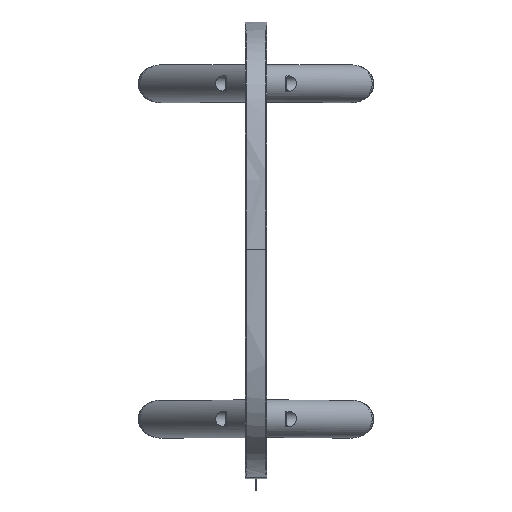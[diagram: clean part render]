
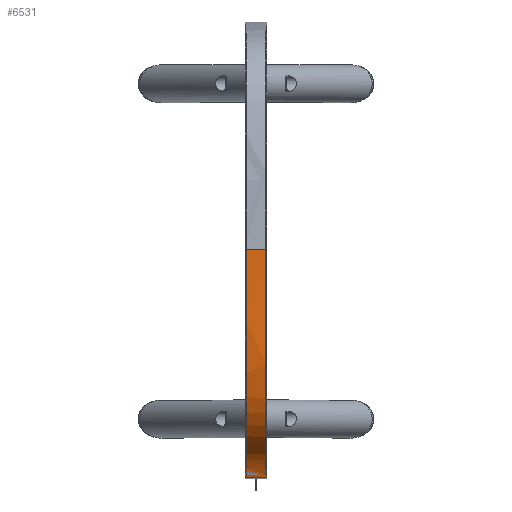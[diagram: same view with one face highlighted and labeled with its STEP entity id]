
A CAD part, top view. The second image highlights one B-rep face of the part: STEP entity #6531.
In plain terms, the highlighted free-form (B-spline) face has degree [3, 1] with [28, 2] control points.
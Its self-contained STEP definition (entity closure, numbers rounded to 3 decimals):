
#372=B_SPLINE_SURFACE_WITH_KNOTS('',3,1,((#9185,#9186),(#9187,#9188),(#9189,
#9190),(#9191,#9192),(#9193,#9194),(#9195,#9196),(#9197,#9198),(#9199,#9200),
(#9201,#9202),(#9203,#9204),(#9205,#9206),(#9207,#9208),(#9209,#9210),(#9211,
#9212),(#9213,#9214),(#9215,#9216),(#9217,#9218),(#9219,#9220),(#9221,#9222),
(#9223,#9224),(#9225,#9226),(#9227,#9228),(#9229,#9230),(#9231,#9232),(#9233,
#9234),(#9235,#9236),(#9237,#9238),(#9239,#9240)),.UNSPECIFIED.,.F.,.F.,
 .F.,(4,3,3,3,3,3,3,3,3,4),(2,2),(-0.009,0.,0.001,
0.13,0.294,0.457,0.624,
0.791,0.926,1.),(0.,3.72),
 .UNSPECIFIED.);
#574=FACE_OUTER_BOUND('',#971,.T.);
#971=EDGE_LOOP('',(#4419,#4420,#4421,#4422));
#1387=LINE('',#9068,#1959);
#1391=LINE('',#9241,#1963);
#1959=VECTOR('',#7445,10.);
#1963=VECTOR('',#7451,10.);
#2526=B_SPLINE_CURVE_WITH_KNOTS('',3,(#8827,#8828,#8829,#8830,#8831,#8832,
#8833,#8834,#8835,#8836,#8837,#8838,#8839,#8840,#8841,#8842,#8843,#8844,
#8845,#8846,#8847,#8848,#8849,#8850,#8851),.UNSPECIFIED.,.F.,.F.,(4,3,3,
3,3,3,3,3,4),(-1.,-0.926,-0.791,-0.624,
-0.457,-0.294,-0.13,-0.001,
-0.001),.UNSPECIFIED.);
#2530=B_SPLINE_CURVE_WITH_KNOTS('',3,(#8948,#8949,#8950,#8951,#8952,#8953,
#8954,#8955,#8956,#8957,#8958,#8959,#8960,#8961,#8962,#8963,#8964,#8965,
#8966,#8967,#8968,#8969,#8970,#8971,#8972),.UNSPECIFIED.,.F.,.F.,(4,3,3,
3,3,3,3,3,4),(0.001,0.001,0.13,
0.294,0.457,0.624,0.791,
0.926,1.),.UNSPECIFIED.);
#2740=VERTEX_POINT('',#8825);
#2741=VERTEX_POINT('',#8826);
#2752=VERTEX_POINT('',#8946);
#2753=VERTEX_POINT('',#8947);
#3395=EDGE_CURVE('',#2740,#2741,#2526,.F.);
#3407=EDGE_CURVE('',#2752,#2753,#2530,.T.);
#3420=EDGE_CURVE('',#2741,#2753,#1387,.T.);
#3424=EDGE_CURVE('',#2752,#2740,#1391,.T.);
#4419=ORIENTED_EDGE('',*,*,#3420,.T.);
#4420=ORIENTED_EDGE('',*,*,#3407,.F.);
#4421=ORIENTED_EDGE('',*,*,#3424,.T.);
#4422=ORIENTED_EDGE('',*,*,#3395,.T.);
#6531=ADVANCED_FACE('',(#574),#372,.T.);
#7445=DIRECTION('',(1.,0.,0.));
#7451=DIRECTION('',(-1.,0.,0.));
#8825=CARTESIAN_POINT('',(-14.,0.,836.125));
#8826=CARTESIAN_POINT('',(-14.,-300.,535.125));
#8827=CARTESIAN_POINT('Ctrl Pts',(-14.,-300.,535.125));
#8828=CARTESIAN_POINT('Ctrl Pts',(-14.,-300.,555.698));
#8829=CARTESIAN_POINT('Ctrl Pts',(-14.,-299.665,574.85));
#8830=CARTESIAN_POINT('Ctrl Pts',(-14.,-298.991,592.621));
#8831=CARTESIAN_POINT('Ctrl Pts',(-14.,-297.77,624.789));
#8832=CARTESIAN_POINT('Ctrl Pts',(-14.,-295.447,652.412));
#8833=CARTESIAN_POINT('Ctrl Pts',(-14.,-291.889,676.135));
#8834=CARTESIAN_POINT('Ctrl Pts',(-14.,-287.458,705.682));
#8835=CARTESIAN_POINT('Ctrl Pts',(-14.,-281.132,729.217));
#8836=CARTESIAN_POINT('Ctrl Pts',(-14.,-272.22,748.332));
#8837=CARTESIAN_POINT('Ctrl Pts',(-14.,-263.38,767.295));
#8838=CARTESIAN_POINT('Ctrl Pts',(-14.,-251.979,781.936));
#8839=CARTESIAN_POINT('Ctrl Pts',(-14.,-236.915,793.523));
#8840=CARTESIAN_POINT('Ctrl Pts',(-14.,-222.101,804.918));
#8841=CARTESIAN_POINT('Ctrl Pts',(-14.,-203.748,813.364));
#8842=CARTESIAN_POINT('Ctrl Pts',(-14.,-180.463,819.731));
#8843=CARTESIAN_POINT('Ctrl Pts',(-14.,-157.086,826.123));
#8844=CARTESIAN_POINT('Ctrl Pts',(-14.,-128.69,830.422));
#8845=CARTESIAN_POINT('Ctrl Pts',(-14.,-93.864,833.043));
#8846=CARTESIAN_POINT('Ctrl Pts',(-14.,-66.631,835.094));
#8847=CARTESIAN_POINT('Ctrl Pts',(-14.,-35.449,836.106));
#8848=CARTESIAN_POINT('Ctrl Pts',(-14.,-0.001,
836.125));
#8849=CARTESIAN_POINT('Ctrl Pts',(-14.,0.,
836.125));
#8850=CARTESIAN_POINT('Ctrl Pts',(-14.,0.,
836.125));
#8851=CARTESIAN_POINT('Ctrl Pts',(-14.,0.,
836.125));
#8946=CARTESIAN_POINT('',(14.,0.,836.125));
#8947=CARTESIAN_POINT('',(14.,-300.,535.125));
#8948=CARTESIAN_POINT('Ctrl Pts',(14.,0.,836.125));
#8949=CARTESIAN_POINT('Ctrl Pts',(14.,0.,836.125));
#8950=CARTESIAN_POINT('Ctrl Pts',(14.,0.,836.125));
#8951=CARTESIAN_POINT('Ctrl Pts',(14.,-0.001,836.125));
#8952=CARTESIAN_POINT('Ctrl Pts',(14.,-35.449,836.106));
#8953=CARTESIAN_POINT('Ctrl Pts',(14.,-66.631,835.094));
#8954=CARTESIAN_POINT('Ctrl Pts',(14.,-93.864,833.043));
#8955=CARTESIAN_POINT('Ctrl Pts',(14.,-128.69,830.422));
#8956=CARTESIAN_POINT('Ctrl Pts',(14.,-157.086,826.123));
#8957=CARTESIAN_POINT('Ctrl Pts',(14.,-180.463,819.731));
#8958=CARTESIAN_POINT('Ctrl Pts',(14.,-203.748,813.364));
#8959=CARTESIAN_POINT('Ctrl Pts',(14.,-222.101,804.918));
#8960=CARTESIAN_POINT('Ctrl Pts',(14.,-236.915,793.523));
#8961=CARTESIAN_POINT('Ctrl Pts',(14.,-251.979,781.936));
#8962=CARTESIAN_POINT('Ctrl Pts',(14.,-263.38,767.295));
#8963=CARTESIAN_POINT('Ctrl Pts',(14.,-272.22,748.332));
#8964=CARTESIAN_POINT('Ctrl Pts',(14.,-281.132,729.217));
#8965=CARTESIAN_POINT('Ctrl Pts',(14.,-287.458,705.682));
#8966=CARTESIAN_POINT('Ctrl Pts',(14.,-291.889,676.135));
#8967=CARTESIAN_POINT('Ctrl Pts',(14.,-295.447,652.412));
#8968=CARTESIAN_POINT('Ctrl Pts',(14.,-297.77,624.789));
#8969=CARTESIAN_POINT('Ctrl Pts',(14.,-298.991,592.621));
#8970=CARTESIAN_POINT('Ctrl Pts',(14.,-299.665,574.85));
#8971=CARTESIAN_POINT('Ctrl Pts',(14.,-300.,555.698));
#8972=CARTESIAN_POINT('Ctrl Pts',(14.,-300.,535.125));
#9068=CARTESIAN_POINT('',(0.,-300.,535.125));
#9185=CARTESIAN_POINT('Ctrl Pts',(-15.5,8.287,836.125));
#9186=CARTESIAN_POINT('Ctrl Pts',(21.7,8.287,836.125));
#9187=CARTESIAN_POINT('Ctrl Pts',(-15.5,5.858,836.125));
#9188=CARTESIAN_POINT('Ctrl Pts',(21.7,5.858,836.125));
#9189=CARTESIAN_POINT('Ctrl Pts',(-15.5,3.429,836.125));
#9190=CARTESIAN_POINT('Ctrl Pts',(21.7,3.429,836.125));
#9191=CARTESIAN_POINT('Ctrl Pts',(-15.5,1.,836.125));
#9192=CARTESIAN_POINT('Ctrl Pts',(21.7,1.,836.125));
#9193=CARTESIAN_POINT('Ctrl Pts',(-15.5,0.666,836.125));
#9194=CARTESIAN_POINT('Ctrl Pts',(21.7,0.666,836.125));
#9195=CARTESIAN_POINT('Ctrl Pts',(-15.5,0.333,836.125));
#9196=CARTESIAN_POINT('Ctrl Pts',(21.7,0.333,836.125));
#9197=CARTESIAN_POINT('Ctrl Pts',(-15.5,-0.001,
836.125));
#9198=CARTESIAN_POINT('Ctrl Pts',(21.7,-0.001,836.125));
#9199=CARTESIAN_POINT('Ctrl Pts',(-15.5,-35.449,836.106));
#9200=CARTESIAN_POINT('Ctrl Pts',(21.7,-35.449,836.106));
#9201=CARTESIAN_POINT('Ctrl Pts',(-15.5,-66.631,835.094));
#9202=CARTESIAN_POINT('Ctrl Pts',(21.7,-66.631,835.094));
#9203=CARTESIAN_POINT('Ctrl Pts',(-15.5,-93.864,833.043));
#9204=CARTESIAN_POINT('Ctrl Pts',(21.7,-93.864,833.043));
#9205=CARTESIAN_POINT('Ctrl Pts',(-15.5,-128.69,830.422));
#9206=CARTESIAN_POINT('Ctrl Pts',(21.7,-128.69,830.422));
#9207=CARTESIAN_POINT('Ctrl Pts',(-15.5,-157.086,826.123));
#9208=CARTESIAN_POINT('Ctrl Pts',(21.7,-157.086,826.123));
#9209=CARTESIAN_POINT('Ctrl Pts',(-15.5,-180.463,819.731));
#9210=CARTESIAN_POINT('Ctrl Pts',(21.7,-180.463,819.731));
#9211=CARTESIAN_POINT('Ctrl Pts',(-15.5,-203.748,813.364));
#9212=CARTESIAN_POINT('Ctrl Pts',(21.7,-203.748,813.364));
#9213=CARTESIAN_POINT('Ctrl Pts',(-15.5,-222.101,804.918));
#9214=CARTESIAN_POINT('Ctrl Pts',(21.7,-222.101,804.918));
#9215=CARTESIAN_POINT('Ctrl Pts',(-15.5,-236.915,793.523));
#9216=CARTESIAN_POINT('Ctrl Pts',(21.7,-236.915,793.523));
#9217=CARTESIAN_POINT('Ctrl Pts',(-15.5,-251.979,781.936));
#9218=CARTESIAN_POINT('Ctrl Pts',(21.7,-251.979,781.936));
#9219=CARTESIAN_POINT('Ctrl Pts',(-15.5,-263.38,767.295));
#9220=CARTESIAN_POINT('Ctrl Pts',(21.7,-263.38,767.295));
#9221=CARTESIAN_POINT('Ctrl Pts',(-15.5,-272.22,748.332));
#9222=CARTESIAN_POINT('Ctrl Pts',(21.7,-272.22,748.332));
#9223=CARTESIAN_POINT('Ctrl Pts',(-15.5,-281.132,729.217));
#9224=CARTESIAN_POINT('Ctrl Pts',(21.7,-281.132,729.217));
#9225=CARTESIAN_POINT('Ctrl Pts',(-15.5,-287.458,705.682));
#9226=CARTESIAN_POINT('Ctrl Pts',(21.7,-287.458,705.682));
#9227=CARTESIAN_POINT('Ctrl Pts',(-15.5,-291.889,676.135));
#9228=CARTESIAN_POINT('Ctrl Pts',(21.7,-291.889,676.135));
#9229=CARTESIAN_POINT('Ctrl Pts',(-15.5,-295.447,652.412));
#9230=CARTESIAN_POINT('Ctrl Pts',(21.7,-295.447,652.412));
#9231=CARTESIAN_POINT('Ctrl Pts',(-15.5,-297.77,624.789));
#9232=CARTESIAN_POINT('Ctrl Pts',(21.7,-297.77,624.789));
#9233=CARTESIAN_POINT('Ctrl Pts',(-15.5,-298.991,592.621));
#9234=CARTESIAN_POINT('Ctrl Pts',(21.7,-298.991,592.621));
#9235=CARTESIAN_POINT('Ctrl Pts',(-15.5,-299.665,574.85));
#9236=CARTESIAN_POINT('Ctrl Pts',(21.7,-299.665,574.85));
#9237=CARTESIAN_POINT('Ctrl Pts',(-15.5,-300.,555.698));
#9238=CARTESIAN_POINT('Ctrl Pts',(21.7,-300.,555.698));
#9239=CARTESIAN_POINT('Ctrl Pts',(-15.5,-300.,535.125));
#9240=CARTESIAN_POINT('Ctrl Pts',(21.7,-300.,535.125));
#9241=CARTESIAN_POINT('',(14.,0.,836.125));
